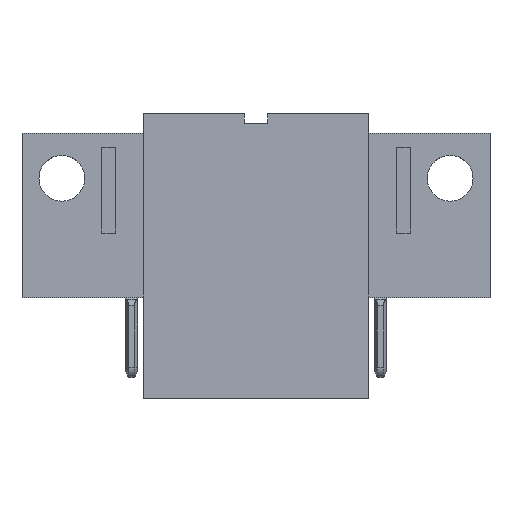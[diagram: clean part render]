
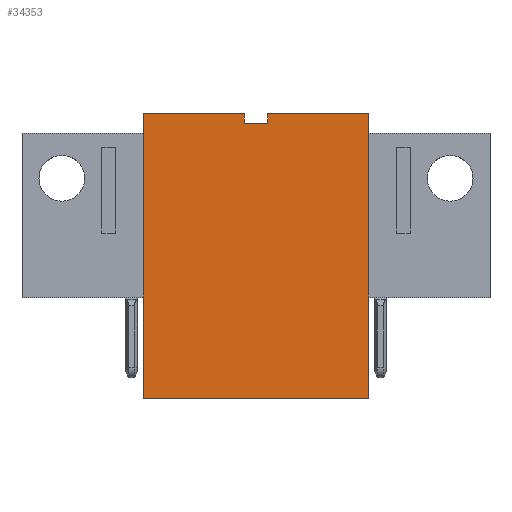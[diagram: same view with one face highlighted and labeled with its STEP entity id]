
A CAD part, top view. The second image highlights one B-rep face of the part: STEP entity #34353.
In plain terms, the highlighted planar face has unit normal (0, 0, 1) as drawn and (0, 0, -1) by its records, which use the part's own axes.
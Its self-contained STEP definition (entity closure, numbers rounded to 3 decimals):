
#33426=DIRECTION('',(0.,1.,0.));
#33427=VECTOR('',#33426,14.3);
#33428=CARTESIAN_POINT('',(-5.65,-7.15,0.));
#33429=LINE('',#33428,#33427);
#33434=DIRECTION('',(1.,0.,0.));
#33435=VECTOR('',#33434,11.3);
#33436=CARTESIAN_POINT('',(-5.65,7.15,0.));
#33437=LINE('',#33436,#33435);
#33578=DIRECTION('',(-1.,0.,0.));
#33579=VECTOR('',#33578,5.05);
#33580=CARTESIAN_POINT('',(5.65,-7.15,0.));
#33581=LINE('',#33580,#33579);
#33594=DIRECTION('',(0.,-1.,0.));
#33595=VECTOR('',#33594,14.3);
#33596=CARTESIAN_POINT('',(5.65,7.15,0.));
#33597=LINE('',#33596,#33595);
#33618=DIRECTION('',(0.,1.,0.));
#33619=VECTOR('',#33618,0.5);
#33620=CARTESIAN_POINT('',(0.6,-7.15,0.));
#33621=LINE('',#33620,#33619);
#33626=DIRECTION('',(-1.,0.,0.));
#33627=VECTOR('',#33626,1.2);
#33628=CARTESIAN_POINT('',(0.6,-6.65,0.));
#33629=LINE('',#33628,#33627);
#33634=DIRECTION('',(0.,-1.,0.));
#33635=VECTOR('',#33634,0.5);
#33636=CARTESIAN_POINT('',(-0.6,-6.65,0.));
#33637=LINE('',#33636,#33635);
#33650=DIRECTION('',(-1.,0.,0.));
#33651=VECTOR('',#33650,5.05);
#33652=CARTESIAN_POINT('',(-0.6,-7.15,0.));
#33653=LINE('',#33652,#33651);
#34106=CARTESIAN_POINT('',(-5.65,-7.15,0.));
#34107=CARTESIAN_POINT('',(-5.65,7.15,0.));
#34108=VERTEX_POINT('',#34106);
#34109=VERTEX_POINT('',#34107);
#34110=CARTESIAN_POINT('',(-0.6,-7.15,0.));
#34111=VERTEX_POINT('',#34110);
#34112=CARTESIAN_POINT('',(-0.6,-6.65,0.));
#34113=VERTEX_POINT('',#34112);
#34114=CARTESIAN_POINT('',(0.6,-6.65,0.));
#34115=VERTEX_POINT('',#34114);
#34116=CARTESIAN_POINT('',(0.6,-7.15,0.));
#34117=VERTEX_POINT('',#34116);
#34118=CARTESIAN_POINT('',(5.65,-7.15,0.));
#34119=VERTEX_POINT('',#34118);
#34120=CARTESIAN_POINT('',(5.65,7.15,0.));
#34121=VERTEX_POINT('',#34120);
#34330=CARTESIAN_POINT('',(0.,0.,0.));
#34331=DIRECTION('',(0.,0.,1.));
#34332=DIRECTION('',(1.,0.,0.));
#34333=AXIS2_PLACEMENT_3D('',#34330,#34331,#34332);
#34334=PLANE('',#34333);
#34336=ORIENTED_EDGE('',*,*,#34335,.F.);
#34338=ORIENTED_EDGE('',*,*,#34337,.F.);
#34340=ORIENTED_EDGE('',*,*,#34339,.F.);
#34342=ORIENTED_EDGE('',*,*,#34341,.F.);
#34344=ORIENTED_EDGE('',*,*,#34343,.F.);
#34346=ORIENTED_EDGE('',*,*,#34345,.F.);
#34348=ORIENTED_EDGE('',*,*,#34347,.F.);
#34350=ORIENTED_EDGE('',*,*,#34349,.F.);
#34351=EDGE_LOOP('',(#34336,#34338,#34340,#34342,#34344,#34346,#34348,#34350));
#34352=FACE_OUTER_BOUND('',#34351,.F.);
#34353=ADVANCED_FACE('',(#34352),#34334,.F.);
#34335=EDGE_CURVE('',#34108,#34109,#33429,.T.);
#34337=EDGE_CURVE('',#34111,#34108,#33653,.T.);
#34339=EDGE_CURVE('',#34113,#34111,#33637,.T.);
#34341=EDGE_CURVE('',#34115,#34113,#33629,.T.);
#34343=EDGE_CURVE('',#34117,#34115,#33621,.T.);
#34345=EDGE_CURVE('',#34119,#34117,#33581,.T.);
#34347=EDGE_CURVE('',#34121,#34119,#33597,.T.);
#34349=EDGE_CURVE('',#34109,#34121,#33437,.T.);
